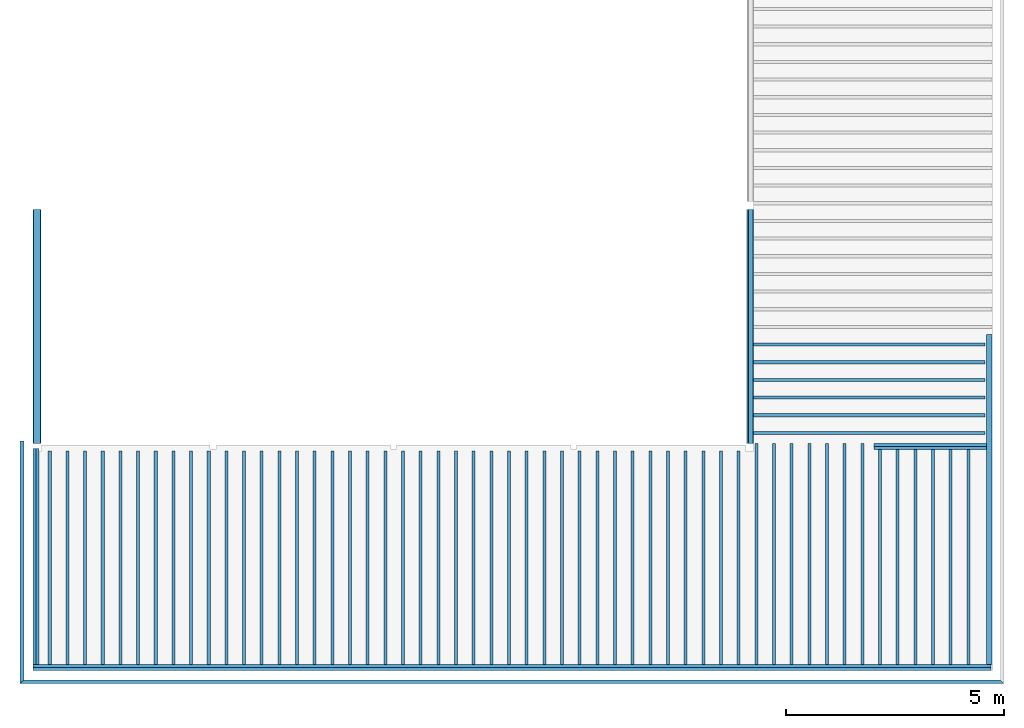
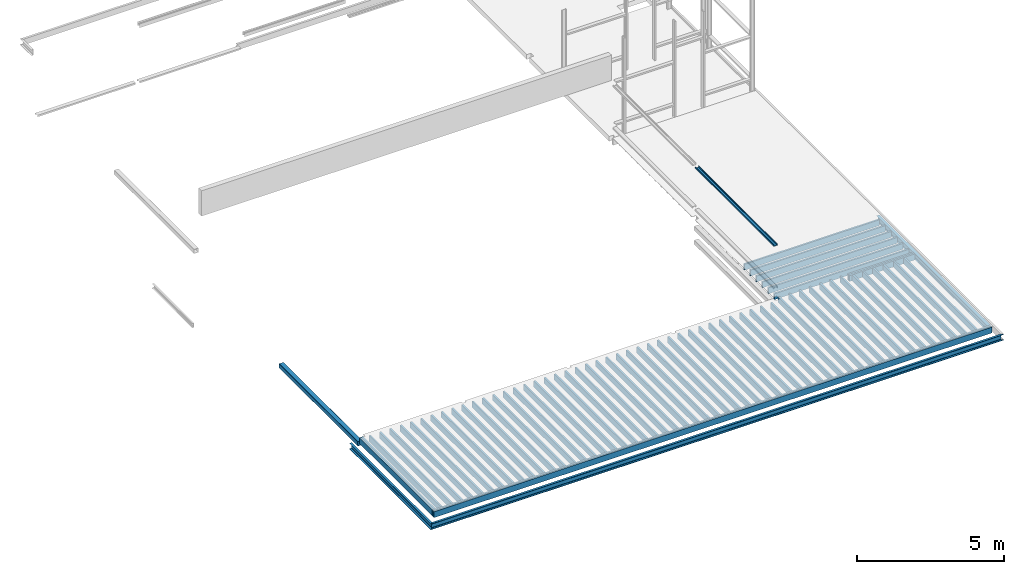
# One storey, part 2 of 8: 70 beams.
"""IFC2X3 building model written with IfcOpenShell, lengths in millimetres."""

from ifc_helpers import new_model, entity, si_unit, converted_unit, derived_unit, direction, frame, frame_2d, origin, place, context, subcontext, project, spatial, polyline, circle_curve, parameter, trimmed, segment, composite_curve, rectangle, i_section, outline, extrude, clip, halfspace, material, type_object, element, save


model = new_model("IFC2X3")

# Units and contexts
model_context = context("Model", 3, precision=0.01, world=origin(), true_north=direction((6.123031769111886e-17, 1.0)))
plan_context = context("Plan", 3, precision=0.01, world=origin(), true_north=direction((6.123031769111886e-17, 1.0)))
body_context = subcontext(model_context, "Body", "Model", "MODEL_VIEW")
ifc_project = project(units=[si_unit("LENGTHUNIT", "METRE", prefix="MILLI"), si_unit("AREAUNIT", "SQUARE_METRE"), si_unit("VOLUMEUNIT", "CUBIC_METRE"), converted_unit("PLANEANGLEUNIT", "DEGREE", entity("IfcPlaneAngleMeasure", 0.017453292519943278), si_unit("PLANEANGLEUNIT", "RADIAN"), dimensions=[0, 0, 0, 0, 0, 0, 0]), si_unit("MASSUNIT", "GRAM", prefix="KILO"), derived_unit("MASSDENSITYUNIT", [(si_unit("MASSUNIT", "GRAM", prefix="KILO"), 1), (si_unit("LENGTHUNIT", "METRE"), -3)]), derived_unit("IONCONCENTRATIONUNIT", [(si_unit("MASSUNIT", "GRAM", prefix="KILO"), 1), (si_unit("LENGTHUNIT", "METRE"), -3)]), derived_unit("MOMENTOFINERTIAUNIT", [(si_unit("LENGTHUNIT", "METRE"), 4)]), si_unit("TIMEUNIT", "SECOND"), si_unit("FREQUENCYUNIT", "HERTZ"), si_unit("THERMODYNAMICTEMPERATUREUNIT", "DEGREE_CELSIUS"), derived_unit("THERMALTRANSMITTANCEUNIT", [(si_unit("MASSUNIT", "GRAM", prefix="KILO"), 1), (si_unit("THERMODYNAMICTEMPERATUREUNIT", "KELVIN"), -1), (si_unit("TIMEUNIT", "SECOND"), -3)]), derived_unit("THERMALCONDUCTANCEUNIT", [(si_unit("MASSUNIT", "GRAM", prefix="KILO"), 1), (si_unit("THERMODYNAMICTEMPERATUREUNIT", "KELVIN"), -1), (si_unit("TIMEUNIT", "SECOND"), -3), (si_unit("LENGTHUNIT", "METRE"), 1)]), derived_unit("VOLUMETRICFLOWRATEUNIT", [(si_unit("LENGTHUNIT", "METRE", prefix="DECI"), 3), (si_unit("TIMEUNIT", "SECOND"), -1)]), derived_unit("MASSFLOWRATEUNIT", [(si_unit("MASSUNIT", "GRAM", prefix="KILO"), 1), (si_unit("TIMEUNIT", "SECOND"), -1)]), derived_unit("ROTATIONALFREQUENCYUNIT", [(si_unit("TIMEUNIT", "SECOND"), -1)]), si_unit("ELECTRICCURRENTUNIT", "AMPERE"), si_unit("ELECTRICVOLTAGEUNIT", "VOLT"), si_unit("POWERUNIT", "WATT"), si_unit("FORCEUNIT", "NEWTON", prefix="KILO"), si_unit("ILLUMINANCEUNIT", "LUX"), si_unit("LUMINOUSFLUXUNIT", "LUMEN"), si_unit("LUMINOUSINTENSITYUNIT", "CANDELA"), si_unit("ENERGYUNIT", "JOULE"), derived_unit("USERDEFINED", [(si_unit("MASSUNIT", "GRAM", prefix="KILO"), -1), (si_unit("LENGTHUNIT", "METRE"), -2), (si_unit("TIMEUNIT", "SECOND"), 3), (si_unit("LUMINOUSFLUXUNIT", "LUMEN"), 1)]), derived_unit("USERDEFINED", [(si_unit("MASSUNIT", "GRAM", prefix="KILO"), 1), (si_unit("TIMEUNIT", "SECOND"), -3), (si_unit("LENGTHUNIT", "METRE"), 3), (si_unit("ELECTRICCURRENTUNIT", "AMPERE"), -2)]), derived_unit("SOUNDPOWERUNIT", [(si_unit("MASSUNIT", "GRAM", prefix="KILO"), 1), (si_unit("TIMEUNIT", "SECOND"), -3), (si_unit("LENGTHUNIT", "METRE"), 2)]), derived_unit("SOUNDPRESSUREUNIT", [(si_unit("MASSUNIT", "GRAM", prefix="KILO"), 1), (si_unit("LENGTHUNIT", "METRE"), -1), (si_unit("TIMEUNIT", "SECOND"), -2)]), derived_unit("LINEARVELOCITYUNIT", [(si_unit("LENGTHUNIT", "METRE"), 1), (si_unit("TIMEUNIT", "SECOND"), -1)]), si_unit("PRESSUREUNIT", "PASCAL"), derived_unit("USERDEFINED", [(si_unit("MASSUNIT", "GRAM", prefix="KILO"), 1), (si_unit("LENGTHUNIT", "METRE"), -2), (si_unit("TIMEUNIT", "SECOND"), -2)]), derived_unit("LINEARFORCEUNIT", [(si_unit("MASSUNIT", "GRAM", prefix="KILO"), 1), (si_unit("TIMEUNIT", "SECOND"), -2)]), derived_unit("PLANARFORCEUNIT", [(si_unit("MASSUNIT", "GRAM", prefix="KILO"), 1), (si_unit("LENGTHUNIT", "METRE"), -1), (si_unit("TIMEUNIT", "SECOND"), -2)]), derived_unit("SPECIFICHEATCAPACITYUNIT", [(si_unit("THERMODYNAMICTEMPERATUREUNIT", "KELVIN"), -1), (si_unit("LENGTHUNIT", "METRE"), 2), (si_unit("TIMEUNIT", "SECOND"), -2)]), derived_unit("HEATFLUXDENSITYUNIT", [(si_unit("MASSUNIT", "GRAM", prefix="KILO"), 1), (si_unit("TIMEUNIT", "SECOND"), -3)]), derived_unit("HEATINGVALUEUNIT", [(si_unit("LENGTHUNIT", "METRE"), 2), (si_unit("TIMEUNIT", "SECOND"), -2)]), derived_unit("VAPORPERMEABILITYUNIT", [(si_unit("LENGTHUNIT", "METRE"), -1), (si_unit("TIMEUNIT", "SECOND"), 1)]), derived_unit("DYNAMICVISCOSITYUNIT", [(si_unit("MASSUNIT", "GRAM", prefix="KILO"), 1), (si_unit("TIMEUNIT", "SECOND"), -1), (si_unit("LENGTHUNIT", "METRE"), -1)]), derived_unit("THERMALEXPANSIONCOEFFICIENTUNIT", [(si_unit("THERMODYNAMICTEMPERATUREUNIT", "KELVIN"), -1)]), derived_unit("MODULUSOFELASTICITYUNIT", [(si_unit("MASSUNIT", "GRAM", prefix="KILO"), 1), (si_unit("LENGTHUNIT", "METRE"), -1), (si_unit("TIMEUNIT", "SECOND"), -2)]), derived_unit("ISOTHERMALMOISTURECAPACITYUNIT", [(si_unit("MASSUNIT", "GRAM", prefix="KILO"), -1), (si_unit("LENGTHUNIT", "METRE"), 3)]), derived_unit("MOISTUREDIFFUSIVITYUNIT", [(si_unit("TIMEUNIT", "SECOND"), -1), (si_unit("LENGTHUNIT", "METRE"), 2)]), derived_unit("MASSPERLENGTHUNIT", [(si_unit("MASSUNIT", "GRAM", prefix="KILO"), 1), (si_unit("LENGTHUNIT", "METRE"), -1)]), derived_unit("THERMALRESISTANCEUNIT", [(si_unit("MASSUNIT", "GRAM", prefix="KILO"), -1), (si_unit("TIMEUNIT", "SECOND"), 3), (si_unit("THERMODYNAMICTEMPERATUREUNIT", "KELVIN"), 1)]), derived_unit("ACCELERATIONUNIT", [(si_unit("LENGTHUNIT", "METRE"), 1), (si_unit("TIMEUNIT", "SECOND"), -2)]), derived_unit("ANGULARVELOCITYUNIT", [(si_unit("TIMEUNIT", "SECOND"), -1), (si_unit("PLANEANGLEUNIT", "RADIAN"), 1)]), derived_unit("LINEARSTIFFNESSUNIT", [(si_unit("MASSUNIT", "GRAM", prefix="KILO"), 1), (si_unit("TIMEUNIT", "SECOND"), -2)]), derived_unit("WARPINGCONSTANTUNIT", [(si_unit("LENGTHUNIT", "METRE"), 6)]), derived_unit("LINEARMOMENTUNIT", [(si_unit("MASSUNIT", "GRAM", prefix="KILO"), 1), (si_unit("LENGTHUNIT", "METRE"), 1), (si_unit("TIMEUNIT", "SECOND"), -2)]), derived_unit("TORQUEUNIT", [(si_unit("MASSUNIT", "GRAM", prefix="KILO"), 1), (si_unit("LENGTHUNIT", "METRE"), 2), (si_unit("TIMEUNIT", "SECOND"), -2)])], contexts=[model_context, plan_context])

# Site, building, storey
site_placement = place(None, origin())
site = spatial("IfcSite", under=ifc_project, at=site_placement, Name="Default", CompositionType="ELEMENT")
building_placement = place(site_placement, origin())
building = spatial("IfcBuilding", under=site, at=building_placement, CompositionType="ELEMENT")
storey_placement = place(building_placement, frame((0.0, 0.0, 3410.0)))
storey = spatial("IfcBuildingStorey", under=building, at=storey_placement, Name="01 eerste verdieping", CompositionType="ELEMENT", Elevation=3410.0000000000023)

# Beams
ifc_material_1 = material(Name="constructiehout C24")
beam_type_1 = type_object("IfcBeamType", Name="28_SF_LIB_houten ligger rechthoekig_dw:70x245 (C24)", PredefinedType="NOTDEFINED")
for number, where in (
    (1, (34066.192937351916, 11247.670340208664, 110.0)),
    (2, (34066.192937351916, 11317.670340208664, 110.0)),
):
    element("IfcBeam", number, at=place(storey_placement, frame(where)), inside=storey, type_object=beam_type_1, material=ifc_material_1, Name="28_SF_LIB_houten ligger rechthoekig_dw:70x245 (C24)", ObjectType="28_SF_LIB_houten ligger rechthoekig_dw:70x245 (C24)", context=body_context, shape_type="SweptSolid", body=[
        extrude(rectangle(XDim=244.99999999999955, YDim=69.99999999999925, at=frame_2d((-2.7000623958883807e-13, 7.796785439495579e-11), x_axis=(1.0, 0.0))), frame((0.0, 0.0, -240.5000000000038), z_axis=(1.0, 0.0, 0.0), x_axis=(0.0, 0.0, -1.0)), (0.0, 0.0, 1.0), 21963.999999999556),
    ])
beam_1_placement = place(storey_placement, frame((53346.192937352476, 16389.670340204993, 110.0)))
element("IfcBeam", 3, at=beam_1_placement, inside=storey, type_object=beam_type_1, material=ifc_material_1, Name="28_SF_LIB_houten ligger rechthoekig_dw:70x245 (C24)", ObjectType="28_SF_LIB_houten ligger rechthoekig_dw:70x245 (C24)", context=body_context, shape_type="SweptSolid", body=[
    extrude(rectangle(XDim=244.99999999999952, YDim=69.99999999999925, at=frame_2d((-2.7000623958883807e-13, 1.0828671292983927e-11), x_axis=(1.0, 0.0))), frame((0.0, 0.0, -240.5000000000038), z_axis=(1.0, 0.0, 0.0), x_axis=(0.0, 0.0, -1.0)), (0.0, 0.0, 1.0), 2579.9999999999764),
])
beam_2_placement = place(storey_placement, frame((53346.192937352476, 16319.670340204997, 110.0)))
element("IfcBeam", 4, at=beam_2_placement, inside=storey, type_object=beam_type_1, material=ifc_material_1, Name="28_SF_LIB_houten ligger rechthoekig_dw:70x245 (C24)", ObjectType="28_SF_LIB_houten ligger rechthoekig_dw:70x245 (C24)", context=body_context, shape_type="SweptSolid", body=[
    extrude(rectangle(XDim=244.99999999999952, YDim=69.99999999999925, at=frame_2d((-2.7000623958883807e-13, 8.661515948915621e-12), x_axis=(1.0, 0.0))), frame((0.0, 0.0, -240.5000000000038), z_axis=(1.0, 0.0, 0.0), x_axis=(0.0, 0.0, -1.0)), (0.0, 0.0, 1.0), 2579.9999999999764),
])
for number, where, z_axis, x_axis in (
    (5, (34448.136039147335, 11352.670340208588, 0.0), (0.0, 0.0, 1.0), (0.0, 1.0, 0.0)),
    (6, (34853.136039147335, 11352.670340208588, 0.0), (0.0, 0.0, 1.0), (0.0, 1.0, 0.0)),
    (7, (35258.13603914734, 11352.670340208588, 0.0), (0.0, 0.0, 1.0), (0.0, 1.0, 0.0)),
    (8, (35663.13603914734, 11352.670340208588, 0.0), (0.0, 0.0, 1.0), (0.0, 1.0, 0.0)),
    (9, (36068.136039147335, 11352.670340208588, 0.0), (0.0, 0.0, 1.0), (0.0, 1.0, 0.0)),
    (10, (36473.136039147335, 11352.670340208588, 0.0), (0.0, 0.0, 1.0), (0.0, 1.0, 0.0)),
    (11, (36878.13603914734, 11352.670340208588, 0.0), (0.0, 0.0, 1.0), (0.0, 1.0, 0.0)),
    (12, (37283.13603914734, 11352.670340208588, 0.0), (0.0, 0.0, 1.0), (0.0, 1.0, 0.0)),
    (13, (37688.136039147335, 11352.670340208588, 0.0), (0.0, 0.0, 1.0), (0.0, 1.0, 0.0)),
):
    element("IfcBeam", number, at=place(storey_placement, frame(where, z_axis=z_axis, x_axis=x_axis)), inside=storey, type_object=beam_type_1, material=ifc_material_1, Name="28_SF_LIB_houten ligger rechthoekig_dw:70x245 (C24)", ObjectType="28_SF_LIB_houten ligger rechthoekig_dw:70x245 (C24)", context=body_context, shape_type="SweptSolid", body=[
        extrude(rectangle(XDim=244.99999999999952, YDim=70.0000000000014, at=frame_2d((2.7711166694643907e-13, 0.0), x_axis=(1.0, 0.0))), frame((0.0, 0.0, -130.5000000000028), z_axis=(1.0, 0.0, 0.0), x_axis=(0.0, 0.0, -1.0)), (0.0, 0.0, 1.0), 4899.9999999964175),
    ])
beam_3_placement = place(storey_placement, frame((38093.136039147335, 11352.670340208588, 0.0), z_axis=(0.0, 0.0, 1.0), x_axis=(0.0, 1.0, 0.0)))
element("IfcBeam", 14, at=beam_3_placement, inside=storey, type_object=beam_type_1, material=ifc_material_1, Name="28_SF_LIB_houten ligger rechthoekig_dw:70x245 (C24)", ObjectType="28_SF_LIB_houten ligger rechthoekig_dw:70x245 (C24)", context=body_context, shape_type="SweptSolid", body=[
    extrude(rectangle(XDim=245.00000000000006, YDim=70.0000000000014, at=frame_2d((2.7711166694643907e-13, 0.0), x_axis=(1.0, 0.0))), frame((0.0, 0.0, -130.5000000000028), z_axis=(1.0, 0.0, 0.0), x_axis=(0.0, 0.0, -1.0)), (0.0, 0.0, 1.0), 4900.0001233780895),
])
for number, where, z_axis, x_axis in (
    (15, (38498.13603914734, 11352.670340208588, 0.0), (0.0, 0.0, 1.0), (0.0, 1.0, 0.0)),
    (16, (38903.13603914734, 11352.670340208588, 0.0), (0.0, 0.0, 1.0), (0.0, 1.0, 0.0)),
    (17, (39308.13603914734, 11352.670340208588, 0.0), (0.0, 0.0, 1.0), (0.0, 1.0, 0.0)),
    (18, (39713.136039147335, 11352.670340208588, 0.0), (0.0, 0.0, 1.0), (0.0, 1.0, 0.0)),
    (19, (40118.13603914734, 11352.670340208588, 0.0), (0.0, 0.0, 1.0), (0.0, 1.0, 0.0)),
    (20, (40523.136039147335, 11352.670340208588, 0.0), (0.0, 0.0, 1.0), (0.0, 1.0, 0.0)),
    (21, (40928.136039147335, 11352.670340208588, 0.0), (0.0, 0.0, 1.0), (0.0, 1.0, 0.0)),
    (22, (41333.13603914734, 11352.670340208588, 0.0), (0.0, 0.0, 1.0), (0.0, 1.0, 0.0)),
    (23, (41738.136039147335, 11352.670340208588, 0.0), (0.0, 0.0, 1.0), (0.0, 1.0, 0.0)),
    (24, (42143.13603914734, 11352.670340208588, 0.0), (0.0, 0.0, 1.0), (0.0, 1.0, 0.0)),
    (25, (42548.13603914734, 11352.670340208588, 0.0), (0.0, 0.0, 1.0), (0.0, 1.0, 0.0)),
    (26, (42953.136039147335, 11352.670340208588, 0.0), (0.0, 0.0, 1.0), (0.0, 1.0, 0.0)),
    (27, (43358.13603914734, 11352.670340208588, 0.0), (0.0, 0.0, 1.0), (0.0, 1.0, 0.0)),
    (28, (43763.13603914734, 11352.670340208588, 0.0), (0.0, 0.0, 1.0), (0.0, 1.0, 0.0)),
    (29, (44168.136039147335, 11352.670340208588, 0.0), (0.0, 0.0, 1.0), (0.0, 1.0, 0.0)),
    (30, (44573.13603914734, 11352.670340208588, 0.0), (0.0, 0.0, 1.0), (0.0, 1.0, 0.0)),
    (31, (44978.13603914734, 11352.670340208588, 0.0), (0.0, 0.0, 1.0), (0.0, 1.0, 0.0)),
    (32, (45383.13603914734, 11352.670340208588, 0.0), (0.0, 0.0, 1.0), (0.0, 1.0, 0.0)),
    (33, (45788.13603914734, 11352.670340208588, 0.0), (0.0, 0.0, 1.0), (0.0, 1.0, 0.0)),
    (34, (46193.136039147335, 11352.670340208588, 0.0), (0.0, 0.0, 1.0), (0.0, 1.0, 0.0)),
    (35, (46598.13603914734, 11352.670340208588, 0.0), (0.0, 0.0, 1.0), (0.0, 1.0, 0.0)),
    (36, (47003.136039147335, 11352.670340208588, 0.0), (0.0, 0.0, 1.0), (0.0, 1.0, 0.0)),
    (37, (47408.136039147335, 11352.670340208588, 0.0), (0.0, 0.0, 1.0), (0.0, 1.0, 0.0)),
    (38, (47813.13603914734, 11352.670340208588, 0.0), (0.0, 0.0, 1.0), (0.0, 1.0, 0.0)),
    (39, (48218.136039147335, 11352.670340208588, 0.0), (0.0, 0.0, 1.0), (0.0, 1.0, 0.0)),
    (40, (48623.136039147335, 11352.670340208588, 0.0), (0.0, 0.0, 1.0), (0.0, 1.0, 0.0)),
    (41, (49028.13603914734, 11352.670340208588, 0.0), (0.0, 0.0, 1.0), (0.0, 1.0, 0.0)),
    (42, (49433.136039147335, 11352.670340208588, 0.0), (0.0, 0.0, 1.0), (0.0, 1.0, 0.0)),
    (43, (49838.13603914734, 11352.670340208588, 0.0), (0.0, 0.0, 1.0), (0.0, 1.0, 0.0)),
    (44, (50243.13603914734, 11352.670340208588, 0.0), (0.0, 0.0, 1.0), (0.0, 1.0, 0.0)),
):
    element("IfcBeam", number, at=place(storey_placement, frame(where, z_axis=z_axis, x_axis=x_axis)), inside=storey, type_object=beam_type_1, material=ifc_material_1, Name="28_SF_LIB_houten ligger rechthoekig_dw:70x245 (C24)", ObjectType="28_SF_LIB_houten ligger rechthoekig_dw:70x245 (C24)", context=body_context, shape_type="SweptSolid", body=[
        extrude(rectangle(XDim=244.99999999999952, YDim=70.0000000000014, at=frame_2d((2.7711166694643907e-13, 0.0), x_axis=(1.0, 0.0))), frame((0.0, 0.0, -130.5000000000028), z_axis=(1.0, 0.0, 0.0), x_axis=(0.0, 0.0, -1.0)), (0.0, 0.0, 1.0), 4899.9999999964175),
    ])
for number, where, z_axis, x_axis in (
    (45, (50648.136039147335, 11352.670340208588, 0.0), (0.0, 0.0, 1.0), (0.0, 1.0, 0.0)),
    (46, (51053.13603914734, 11352.670340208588, 0.0), (0.0, 0.0, 1.0), (0.0, 1.0, 0.0)),
):
    element("IfcBeam", number, at=place(storey_placement, frame(where, z_axis=z_axis, x_axis=x_axis)), inside=storey, type_object=beam_type_1, material=ifc_material_1, Name="28_SF_LIB_houten ligger rechthoekig_dw:70x245 (C24)", ObjectType="28_SF_LIB_houten ligger rechthoekig_dw:70x245 (C24)", context=body_context, shape_type="SweptSolid", body=[
        extrude(rectangle(XDim=244.99999999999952, YDim=70.0000000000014, at=frame_2d((2.7711166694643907e-13, 0.0), x_axis=(1.0, 0.0))), frame((0.0, 0.0, -130.5000000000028), z_axis=(1.0, 0.0, 0.0), x_axis=(0.0, 0.0, -1.0)), (0.0, 0.0, 1.0), 5061.999999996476),
    ])
for number, where, z_axis, x_axis in (
    (47, (51458.13603914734, 11352.670340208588, 0.0), (0.0, 0.0, 1.0), (0.0, 1.0, 0.0)),
    (48, (51863.136039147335, 11352.670340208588, 0.0), (0.0, 0.0, 1.0), (0.0, 1.0, 0.0)),
    (49, (52268.13603914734, 11352.670340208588, 0.0), (0.0, 0.0, 1.0), (0.0, 1.0, 0.0)),
    (50, (52673.13603914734, 11352.670340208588, 0.0), (0.0, 0.0, 1.0), (0.0, 1.0, 0.0)),
    (51, (53078.13603914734, 11352.670340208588, 0.0), (0.0, 0.0, 1.0), (0.0, 1.0, 0.0)),
):
    element("IfcBeam", number, at=place(storey_placement, frame(where, z_axis=z_axis, x_axis=x_axis)), inside=storey, type_object=beam_type_1, material=ifc_material_1, Name="28_SF_LIB_houten ligger rechthoekig_dw:70x245 (C24)", ObjectType="28_SF_LIB_houten ligger rechthoekig_dw:70x245 (C24)", context=body_context, shape_type="SweptSolid", body=[
        extrude(rectangle(XDim=244.99999999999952, YDim=70.0000000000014, at=frame_2d((2.7711166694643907e-13, 0.0), x_axis=(1.0, 0.0))), frame((0.0, 0.0, -130.5000000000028), z_axis=(1.0, 0.0, 0.0), x_axis=(0.0, 0.0, -1.0)), (0.0, 0.0, 1.0), 5061.999999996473),
    ])
beam_4_placement = place(storey_placement, frame((53483.13603914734, 11352.670340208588, 0.0), z_axis=(0.0, 0.0, 1.0), x_axis=(0.0, 1.0, 0.0)))
element("IfcBeam", 52, at=beam_4_placement, inside=storey, type_object=beam_type_1, material=ifc_material_1, Name="28_SF_LIB_houten ligger rechthoekig_dw:70x245 (C24)", ObjectType="28_SF_LIB_houten ligger rechthoekig_dw:70x245 (C24)", context=body_context, shape_type="SweptSolid", body=[
    extrude(rectangle(XDim=244.99999999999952, YDim=70.00000000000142, at=frame_2d((2.7711166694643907e-13, -8.665068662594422e-12), x_axis=(1.0, 0.0))), frame((0.0, 0.0, -130.5000000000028), z_axis=(1.0, 0.0, 0.0), x_axis=(0.0, 0.0, -1.0)), (0.0, 0.0, 1.0), 5061.999999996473),
])
for number, where, z_axis, x_axis in (
    (53, (53888.13603914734, 11352.670340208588, 0.0), (0.0, 0.0, 1.0), (0.0, 1.0, 0.0)),
    (54, (54293.13603914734, 11352.670340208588, 0.0), (0.0, 0.0, 1.0), (0.0, 1.0, 0.0)),
    (55, (54698.136039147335, 11352.670340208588, 0.0), (0.0, 0.0, 1.0), (0.0, 1.0, 0.0)),
    (56, (55103.13603914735, 11352.670340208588, 0.0), (0.0, 0.0, 1.0), (0.0, 1.0, 0.0)),
    (57, (55508.13603914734, 11352.670340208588, 0.0), (0.0, 0.0, 1.0), (0.0, 1.0, 0.0)),
):
    element("IfcBeam", number, at=place(storey_placement, frame(where, z_axis=z_axis, x_axis=x_axis)), inside=storey, type_object=beam_type_1, material=ifc_material_1, Name="28_SF_LIB_houten ligger rechthoekig_dw:70x245 (C24)", ObjectType="28_SF_LIB_houten ligger rechthoekig_dw:70x245 (C24)", context=body_context, shape_type="SweptSolid", body=[
        extrude(rectangle(XDim=244.99999999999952, YDim=70.0000000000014, at=frame_2d((2.7711166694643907e-13, 0.0), x_axis=(1.0, 0.0))), frame((0.0, 0.0, -130.5000000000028), z_axis=(1.0, 0.0, 0.0), x_axis=(0.0, 0.0, -1.0)), (0.0, 0.0, 1.0), 5061.999999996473),
    ])
beam_5_placement = place(storey_placement, frame((50586.19293735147, 18687.67041296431, 0.0)))
element("IfcBeam", 58, at=beam_5_placement, inside=storey, type_object=beam_type_1, material=ifc_material_1, Name="28_SF_LIB_houten ligger rechthoekig_dw:70x245 (C24)", ObjectType="28_SF_LIB_houten ligger rechthoekig_dw:70x245 (C24)", context=body_context, shape_type="SweptSolid", body=[
    extrude(rectangle(XDim=244.99999999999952, YDim=69.99999999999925, at=frame_2d((2.7711166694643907e-13, 2.163602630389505e-12), x_axis=(1.0, 0.0))), frame((0.0, 0.0, -130.5000000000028), z_axis=(1.0, 0.0, 0.0), x_axis=(0.0, 0.0, -1.0)), (0.0, 0.0, 1.0), 5303.999999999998),
])
for number, where in (
    (59, (50586.19293735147, 18282.67041296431, 0.0)),
    (60, (50586.19293735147, 17877.67041296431, 0.0)),
):
    element("IfcBeam", number, at=place(storey_placement, frame(where)), inside=storey, type_object=beam_type_1, material=ifc_material_1, Name="28_SF_LIB_houten ligger rechthoekig_dw:70x245 (C24)", ObjectType="28_SF_LIB_houten ligger rechthoekig_dw:70x245 (C24)", context=body_context, shape_type="SweptSolid", body=[
        extrude(rectangle(XDim=244.99999999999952, YDim=69.99999999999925, at=frame_2d((2.7711166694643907e-13, 0.0), x_axis=(1.0, 0.0))), frame((0.0, 0.0, -130.5000000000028), z_axis=(1.0, 0.0, 0.0), x_axis=(0.0, 0.0, -1.0)), (0.0, 0.0, 1.0), 5303.999999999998),
    ])
beam_6_placement = place(storey_placement, frame((50586.19293735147, 17472.67041296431, 0.0)))
element("IfcBeam", 61, at=beam_6_placement, inside=storey, type_object=beam_type_1, material=ifc_material_1, Name="28_SF_LIB_houten ligger rechthoekig_dw:70x245 (C24)", ObjectType="28_SF_LIB_houten ligger rechthoekig_dw:70x245 (C24)", context=body_context, shape_type="SweptSolid", body=[
    extrude(rectangle(XDim=244.99999999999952, YDim=69.99999999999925, at=frame_2d((2.7711166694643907e-13, 2.163602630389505e-12), x_axis=(1.0, 0.0))), frame((0.0, 0.0, -130.5000000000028), z_axis=(1.0, 0.0, 0.0), x_axis=(0.0, 0.0, -1.0)), (0.0, 0.0, 1.0), 5303.999999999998),
])
for number, where in (
    (62, (50586.19293735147, 17067.67041296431, 0.0)),
    (63, (50586.19293735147, 16662.67041296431, 0.0)),
):
    element("IfcBeam", number, at=place(storey_placement, frame(where)), inside=storey, type_object=beam_type_1, material=ifc_material_1, Name="28_SF_LIB_houten ligger rechthoekig_dw:70x245 (C24)", ObjectType="28_SF_LIB_houten ligger rechthoekig_dw:70x245 (C24)", context=body_context, shape_type="SweptSolid", body=[
        extrude(rectangle(XDim=244.99999999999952, YDim=69.99999999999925, at=frame_2d((2.7711166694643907e-13, 0.0), x_axis=(1.0, 0.0))), frame((0.0, 0.0, -130.5000000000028), z_axis=(1.0, 0.0, 0.0), x_axis=(0.0, 0.0, -1.0)), (0.0, 0.0, 1.0), 5303.999999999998),
    ])
beam_7_placement = place(storey_placement, frame((34171.19293735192, 16301.670172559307, 110.0), z_axis=(0.0, 0.0, 1.0), x_axis=(0.0, -1.0, 0.0)))
element("IfcBeam", 64, at=beam_7_placement, inside=storey, type_object=beam_type_1, material=ifc_material_1, Name="28_SF_LIB_houten ligger rechthoekig_dw:70x245 (C24)", ObjectType="28_SF_LIB_houten ligger rechthoekig_dw:70x245 (C24)", context=body_context, shape_type="SweptSolid", body=[
    extrude(rectangle(XDim=244.99999999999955, YDim=70.0000000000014, at=frame_2d((-2.7711166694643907e-13, 0.0), x_axis=(1.0, 0.0))), frame((0.0, 0.0, -240.5000000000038), z_axis=(1.0, 0.0, 0.0), x_axis=(0.0, 0.0, -1.0)), (0.0, 0.0, 1.0), 4948.99983235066),
])
beam_8_placement = place(storey_placement, frame((34101.19293735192, 16301.670172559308, 110.0), z_axis=(0.0, 0.0, 1.0), x_axis=(0.0, -1.0, 0.0)))
element("IfcBeam", 65, at=beam_8_placement, inside=storey, type_object=beam_type_1, material=ifc_material_1, Name="28_SF_LIB_houten ligger rechthoekig_dw:70x245 (C24)", ObjectType="28_SF_LIB_houten ligger rechthoekig_dw:70x245 (C24)", context=body_context, shape_type="SweptSolid", body=[
    extrude(rectangle(XDim=244.99999999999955, YDim=70.0000000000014, at=frame_2d((-2.7711166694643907e-13, 0.0), x_axis=(1.0, 0.0))), frame((0.0, 0.0, -240.5000000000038), z_axis=(1.0, 0.0, 0.0), x_axis=(0.0, 0.0, -1.0)), (0.0, 0.0, 1.0), 4948.999832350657),
])
ifc_material_2 = material(Name="constructiestaal S235")
beam_type_2 = type_object("IfcBeamType", Name="28_SF_LIB_IPE ligger_dw:IPE240 (S235)", PredefinedType="NOTDEFINED")
beam_9_placement = place(storey_placement, frame((55986.203022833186, 18915.52843651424, 105.0), z_axis=(0.0, 0.0, 1.0), x_axis=(0.0, -1.0, 0.0)))
element("IfcBeam", 66, at=beam_9_placement, inside=storey, type_object=beam_type_2, material=ifc_material_2, Name="28_SF_LIB_IPE ligger_dw:IPE240 (S235)", ObjectType="28_SF_LIB_IPE ligger_dw:IPE240 (S235)", context=body_context, shape_type="SweptSolid", body=[
    extrude(i_section(OverallWidth=119.9999999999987, OverallDepth=240.00000000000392, WebThickness=6.199999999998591, FlangeThickness=9.80000000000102, FilletRadius=14.999999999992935, at=frame_2d((5.400124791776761e-13, 1.2995826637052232e-11), x_axis=(0.0, 1.0))), frame((0.0, -0.010085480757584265, -238.0), z_axis=(1.0, 0.0, 0.0), x_axis=(0.0, 0.0, -1.0)), (0.0, 0.0, 1.0), 7562.000123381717),
])
beam_type_3 = type_object("IfcBeamType", Name="28_SF_LIB_UNP ligger_dw:UNP240 (S235)", PredefinedType="NOTDEFINED")
beam_10_placement = place(storey_placement, frame((33766.192937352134, 10979.310463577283, -240.0)))
element("IfcBeam", 67, at=beam_10_placement, inside=storey, type_object=beam_type_3, material=ifc_material_2, Name="28_SF_LIB_UNP ligger_dw:UNP240 (S235)", ObjectType="28_SF_LIB_UNP ligger_dw:UNP240 (S235)", context=body_context, shape_type="SweptSolid", body=[
    clip(clip(extrude(outline(composite_curve([segment(polyline([(113.997701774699, -38.2499999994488), (119.93760274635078, -38.249999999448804)]), True, "CONTINUOUS"), segment(polyline([(119.93760274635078, -38.249999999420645), (119.93760274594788, 46.75000000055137)]), True, "CONTINUOUS"), segment(polyline([(119.93760274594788, 46.75000000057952), (-120.0623972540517, 46.749999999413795)]), True, "CONTINUOUS"), segment(polyline([(-120.06239725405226, 46.74999999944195), (-120.06239725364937, -38.250000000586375)]), True, "CONTINUOUS"), segment(polyline([(-120.06239725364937, -38.25000000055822), (-114.38745936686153, -38.25000000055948)]), True, "CONTINUOUS"), segment(trimmed(circle_curve(frame_2d((-114.3874593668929, -31.75000000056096), x_axis=(0.0, -1.0)), 6.500000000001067), [parameter(0.0)], [parameter(90.00000000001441)], True, "PARAMETER"), True, "CONTINUOUS"), segment(polyline([(-107.88745936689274, -31.75000000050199), (-103.47086063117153, 24.249999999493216)]), True, "CONTINUOUS"), segment(trimmed(circle_curve(frame_2d((-90.47086063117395, 24.249999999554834), x_axis=(-1.0, 0.0)), 12.999999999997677), [parameter(269.99999999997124)], [parameter(0.0)], True, "PARAMETER"), False, "CONTINUOUS"), segment(polyline([(-90.47086063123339, 37.24999999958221), (90.98541273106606, 37.25000000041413)]), True, "CONTINUOUS"), segment(trimmed(circle_curve(frame_2d((90.98541273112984, 24.250000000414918), x_axis=(0.0, 1.0)), 12.999999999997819), [parameter(269.99999999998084)], [parameter(0.0)], True, "PARAMETER"), False, "CONTINUOUS"), segment(polyline([(103.98541273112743, 24.250000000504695), (107.49770177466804, -31.749999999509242)]), True, "CONTINUOUS"), segment(trimmed(circle_curve(frame_2d((113.9977017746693, -31.749999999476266), x_axis=(-1.0, 0.0)), 6.5000000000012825), [parameter(0.0)], [parameter(89.99999999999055)], True, "PARAMETER"), True, "CONTINUOUS")], self_intersect=False)), frame((0.0, -24.390000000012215, -120.06239725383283), z_axis=(1.0, 0.0, 0.0), x_axis=(0.0, 0.0, -1.0)), (0.0, 0.0, 1.0), 22560.000000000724), halfspace(frame((89.0, 22.36000000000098, 1690.0), z_axis=(-0.6906689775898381, 0.7231710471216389, 0.0), x_axis=(0.7231710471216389, 0.6906689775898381, 0.0)), False)), halfspace(frame((22475.0, 22.359999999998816, 1690.0), z_axis=(0.7071067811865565, 0.7071067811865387, 0.0), x_axis=(-0.7071067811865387, 0.7071067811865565, 0.0)), False)),
])
beam_11_placement = place(storey_placement, frame((33832.8329373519, 16472.670172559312, -240.0), z_axis=(0.0, 0.0, 1.0), x_axis=(0.0, -1.0, 0.0)))
element("IfcBeam", 68, at=beam_11_placement, inside=storey, type_object=beam_type_3, material=ifc_material_2, Name="28_SF_LIB_UNP ligger_dw:UNP240 (S235)", ObjectType="28_SF_LIB_UNP ligger_dw:UNP240 (S235)", context=body_context, shape_type="SweptSolid", body=[
    clip(extrude(outline(composite_curve([segment(polyline([(113.99770177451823, -38.2500000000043), (119.93760274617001, -38.2500000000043)]), True, "CONTINUOUS"), segment(polyline([(119.93760274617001, -38.2500000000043), (119.93760274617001, 46.74999999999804)]), True, "CONTINUOUS"), segment(polyline([(119.93760274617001, 46.74999999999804), (-120.06239725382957, 46.74999999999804)]), True, "CONTINUOUS"), segment(polyline([(-120.06239725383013, 46.750000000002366), (-120.06239725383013, -38.249999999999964)]), True, "CONTINUOUS"), segment(polyline([(-120.06239725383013, -38.2500000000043), (-114.3874593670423, -38.2500000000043)]), True, "CONTINUOUS"), segment(trimmed(circle_curve(frame_2d((-114.38745936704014, -31.750000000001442), x_axis=(0.0, -1.0)), 6.499999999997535), [parameter(0.0)], [parameter(90.00000000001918)], True, "PARAMETER"), True, "CONTINUOUS"), segment(polyline([(-107.8874593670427, -31.750000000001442), (-103.4708606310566, 24.249999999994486)]), True, "CONTINUOUS"), segment(trimmed(circle_curve(frame_2d((-90.47086063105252, 24.249999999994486), x_axis=(-1.0, 0.0)), 13.000000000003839), [parameter(270.0000000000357)], [parameter(0.0)], True, "PARAMETER"), False, "CONTINUOUS"), segment(polyline([(-90.4708606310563, 37.249999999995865), (90.98541273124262, 37.249999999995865)]), True, "CONTINUOUS"), segment(trimmed(circle_curve(frame_2d((90.98541273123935, 24.249999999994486), x_axis=(0.0, 1.0)), 13.000000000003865), [parameter(270.0000000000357)], [parameter(0.0)], True, "PARAMETER"), False, "CONTINUOUS"), segment(polyline([(103.9854127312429, 24.24999999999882), (107.49770177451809, -31.750000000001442)]), True, "CONTINUOUS"), segment(trimmed(circle_curve(frame_2d((113.99770177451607, -31.750000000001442), x_axis=(-1.0, 0.0)), 6.499999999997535), [parameter(0.0)], [parameter(90.00000000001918)], True, "PARAMETER"), True, "CONTINUOUS")], self_intersect=False)), frame((0.0, -24.389999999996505, -120.06239725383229), z_axis=(1.0, 0.0, 0.0), x_axis=(0.0, 0.0, -1.0)), (0.0, 0.0, 1.0), 5552.179484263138), halfspace(frame((5470.999708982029, 22.360000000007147, 1690.0), z_axis=(0.7231710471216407, 0.6906689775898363, 0.0), x_axis=(-0.6906689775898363, 0.7231710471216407, 0.0)), False)),
])
beam_type_4 = type_object("IfcBeamType", Name="28_SF_LIB_UNP ligger_dw:UNP140 (S235)", PredefinedType="NOTDEFINED")
beam_12_placement = place(storey_placement, frame((50586.19293735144, 16472.670340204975, 2140.0), z_axis=(0.0, 0.0, 1.0), x_axis=(0.0, 1.0, 0.0)))
element("IfcBeam", 69, at=beam_12_placement, inside=storey, type_object=beam_type_4, material=ifc_material_2, Name="28_SF_LIB_UNP ligger_dw:UNP140 (S235)", ObjectType="28_SF_LIB_UNP ligger_dw:UNP140 (S235)", context=body_context, shape_type="SweptSolid", body=[
    extrude(outline(composite_curve([segment(polyline([(-26.833333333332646, -70.06239725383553), (33.16666666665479, -70.06239725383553)]), True, "CONTINUOUS"), segment(polyline([(33.16666666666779, -70.06239725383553), (33.16666666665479, 69.93760274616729)]), True, "CONTINUOUS"), segment(polyline([(33.16666666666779, 69.93760274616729), (-26.833333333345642, 69.93760274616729)]), True, "CONTINUOUS"), segment(polyline([(-26.833333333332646, 69.93760274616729), (-26.833333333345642, 65.16520177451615)]), True, "CONTINUOUS"), segment(trimmed(circle_curve(frame_2d((-21.833333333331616, 65.16520177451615), x_axis=(-1.0, 0.0)), 5.000000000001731), [parameter(0.0)], [parameter(89.99999999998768)], True, "PARAMETER"), True, "CONTINUOUS"), segment(polyline([(-21.833333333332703, 60.165201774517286), (16.166666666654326, 58.14041273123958)]), True, "CONTINUOUS"), segment(trimmed(circle_curve(frame_2d((16.166666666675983, 48.14041273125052), x_axis=(0.0, 1.0)), 9.999999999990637), [parameter(269.99999999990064)], [parameter(0.0)], True, "PARAMETER"), False, "CONTINUOUS"), segment(polyline([(26.166666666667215, 48.14041273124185), (26.16666666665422, -47.62586063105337)]), True, "CONTINUOUS"), segment(trimmed(circle_curve(frame_2d((16.166666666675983, -47.625860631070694), x_axis=(1.0, 0.0)), 9.999999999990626), [parameter(269.99999999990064)], [parameter(0.0)], True, "PARAMETER"), False, "CONTINUOUS"), segment(polyline([(16.16666666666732, -57.62586063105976), (-21.8333333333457, -60.554959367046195)]), True, "CONTINUOUS"), segment(trimmed(circle_curve(frame_2d((-21.833333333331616, -65.55495936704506), x_axis=(0.0, 1.0)), 5.000000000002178), [parameter(0.0)], [parameter(89.99999999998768)], True, "PARAMETER"), True, "CONTINUOUS"), segment(polyline([(-26.833333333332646, -65.55495936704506), (-26.833333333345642, -70.06239725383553)]), True, "CONTINUOUS")], self_intersect=False)), frame((-48.99987661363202, 70.06239725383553, 33.16666666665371), z_axis=(1.0, 0.0, 0.0), x_axis=(0.0, 0.0, -1.0)), (0.0, 0.0, 1.0), 5358.9998766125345),
])
ifc_material_3 = material(Name="constructiestaal S355")
beam_type_5 = type_object("IfcBeamType", Name="28_SF_UN_koker ligger_dw:K180x180x10 (S355)", PredefinedType="NOTDEFINED")
beam_13_placement = place(storey_placement, origin())
element("IfcBeam", 70, at=beam_13_placement, inside=storey, type_object=beam_type_5, material=ifc_material_3, Name="28_SF_UN_koker ligger_dw:K180x180x10 (S355)", ObjectType="28_SF_UN_koker ligger_dw:K180x180x10 (S355)", context=body_context, shape_type="SweptSolid", body=[
    extrude(outline(composite_curve([segment(polyline([(-75.0, -90.0), (75.0, -90.0)]), True, "CONTINUOUS"), segment(trimmed(circle_curve(frame_2d((75.0, -75.0), x_axis=(-1.0, 0.0)), 15.0), [parameter(90.00000000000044)], [parameter(180.0000000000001)], True, "PARAMETER"), True, "CONTINUOUS"), segment(polyline([(90.0, -75.0), (90.0, 75.0)]), True, "CONTINUOUS"), segment(trimmed(circle_curve(frame_2d((75.0, 75.0), x_axis=(-1.0, 0.0)), 15.0), [parameter(180.00000000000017)], [parameter(269.9999999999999)], True, "PARAMETER"), True, "CONTINUOUS"), segment(polyline([(75.0, 90.0), (-75.0, 90.0)]), True, "CONTINUOUS"), segment(trimmed(circle_curve(frame_2d((-75.0, 75.0), x_axis=(-1.0, 0.0)), 15.0), [parameter(270.0000000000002)], [parameter(3.053332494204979e-13)], True, "PARAMETER"), True, "CONTINUOUS"), segment(polyline([(-90.0, 75.0), (-90.0, -75.0)]), True, "CONTINUOUS"), segment(trimmed(circle_curve(frame_2d((-75.0, -75.0), x_axis=(-1.0, 0.0)), 15.0), [parameter(3.053332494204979e-13)], [parameter(90.0000000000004)], True, "PARAMETER"), True, "CONTINUOUS")], self_intersect=False), holes=[composite_curve([segment(trimmed(circle_curve(frame_2d((-77.0, -77.0), x_axis=(-1.0, 0.0)), 5.0), [parameter(5.597776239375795e-13)], [parameter(90.0000000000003)], True, "PARAMETER"), False, "CONTINUOUS"), segment(polyline([(-82.0, -77.0), (-82.0, 77.0)]), True, "CONTINUOUS"), segment(trimmed(circle_curve(frame_2d((-77.0, 77.0), x_axis=(-1.0, 0.0)), 5.0), [parameter(270.00000000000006)], [parameter(0.0)], True, "PARAMETER"), False, "CONTINUOUS"), segment(polyline([(-77.0, 82.0), (77.0, 82.0)]), True, "CONTINUOUS"), segment(trimmed(circle_curve(frame_2d((77.0, 77.0), x_axis=(-1.0, 0.0)), 5.0), [parameter(179.9999999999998)], [parameter(269.99999999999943)], True, "PARAMETER"), False, "CONTINUOUS"), segment(polyline([(82.0, 77.0), (82.0, -77.0)]), True, "CONTINUOUS"), segment(trimmed(circle_curve(frame_2d((77.0, -77.0), x_axis=(-1.0, 0.0)), 5.0), [parameter(89.99999999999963)], [parameter(179.9999999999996)], True, "PARAMETER"), False, "CONTINUOUS"), segment(polyline([(77.0, -82.0), (-77.0, -82.0)]), True, "CONTINUOUS")], self_intersect=False)]), frame((34156.192937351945, 16423.670463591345, -345.0), z_axis=(0.0, 1.0, 0.0), x_axis=(1.0, 0.0, 0.0)), (0.0, 0.0, 1.0), 5358.999876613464),
])

save(model, "model.ifc")
